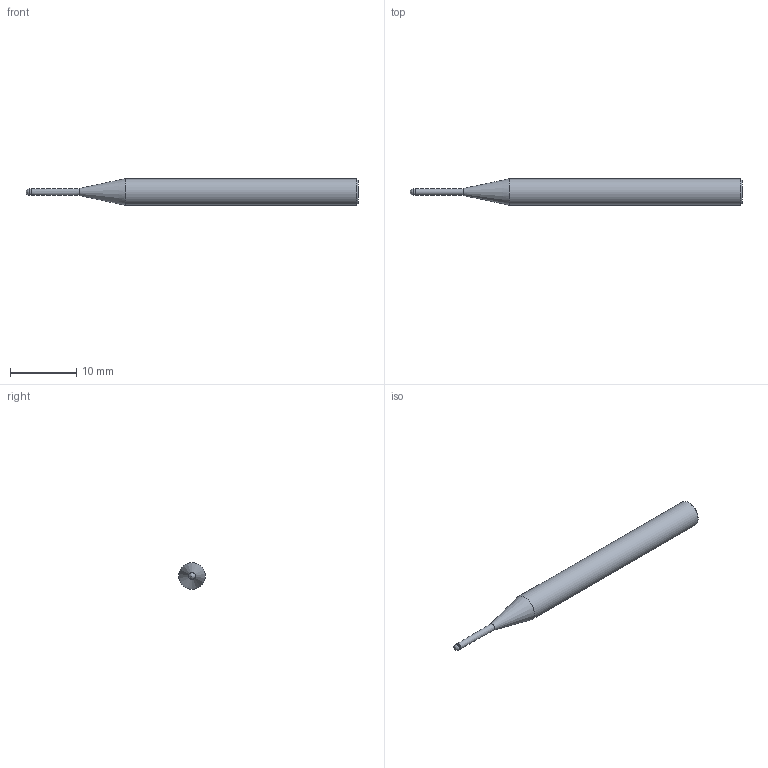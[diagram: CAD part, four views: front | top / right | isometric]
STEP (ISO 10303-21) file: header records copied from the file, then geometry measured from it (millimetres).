
FILE_DESCRIPTION(/* description */ (''),/* implementation_level */ '2;1');
FILE_NAME(/* name */ 'HGXPB2010-8-T0.4 0450.stp',/* time_stamp */ '2026-01-22T08:54:25+08:00',/* author */ (''),/* organization */ (''),/* preprocessor_version */ 'ST-DEVELOPER v16',/* originating_system */ 'SIEMENS PLM Software NX 10.0',/* authorisation */ '');
FILE_SCHEMA (('CONFIG_CONTROL_DESIGN'));
Length unit declared in the file: millimetre
Products named in the file (1): HGXPB2010-8-T0.4 0450_x_t
Bounding box: 50 x 4 x 4 mm (x, y, z)
Volume: 485.2 mm3; surface area: 533.1 mm2
Topology: 1 solids, 1 shells, 9 faces, 16 edges, 9 vertices
Faces by surface type: cylinder 3, cone 3, plane 2, bspline 1
Full cylindrical faces by diameter (mm): 0.95 x1, 1 x1, 4 x1
Entity records: 285 total; most frequent: CARTESIAN_POINT 54, DIRECTION 34, AXIS2_PLACEMENT_3D 17, FACE_BOUND 16, EDGE_LOOP 16, ORIENTED_EDGE 16, ADVANCED_FACE 9, VERTEX_POINT 9
